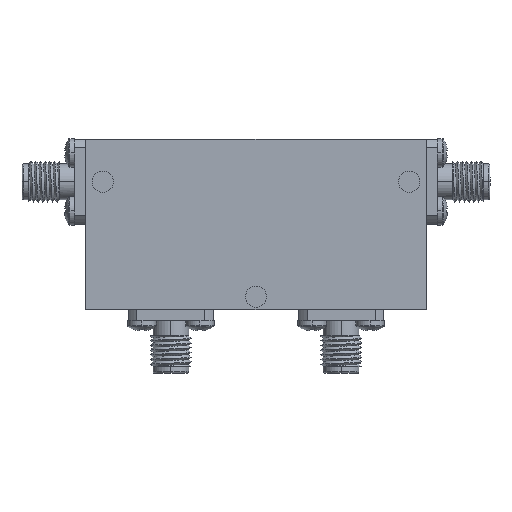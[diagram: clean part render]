
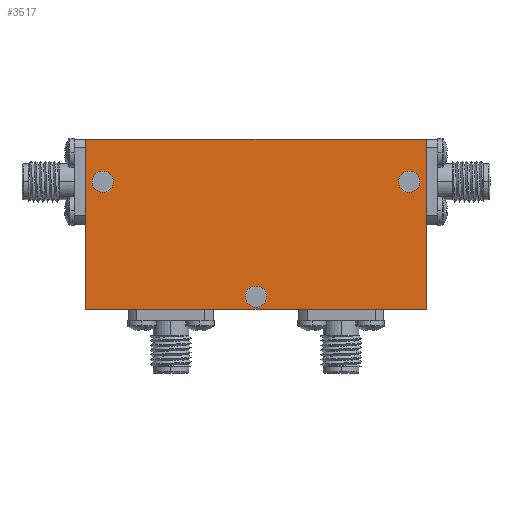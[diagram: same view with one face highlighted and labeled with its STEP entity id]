
A CAD part, top view. The second image highlights one B-rep face of the part: STEP entity #3517.
In plain terms, the highlighted planar face has unit normal (0, 0, 1).
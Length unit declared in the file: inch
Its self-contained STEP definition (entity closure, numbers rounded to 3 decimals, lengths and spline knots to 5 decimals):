
#24 = CARTESIAN_POINT ( 'NONE',  ( 0., -0.425, 0.25 ) ) ;
#54 = EDGE_CURVE ( 'NONE', #2846, #2565, #1961, .T. ) ;
#116 = CIRCLE ( 'NONE', #2956, 0.0625 ) ;
#124 = DIRECTION ( 'NONE',  ( 0., 0., 1. ) ) ;
#130 = CARTESIAN_POINT ( 'NONE',  ( -0.0625, -0.425, 0.25 ) ) ;
#147 = VERTEX_POINT ( 'NONE', #3476 ) ;
#151 = CARTESIAN_POINT ( 'NONE',  ( 0.9, 0.25, 0.25 ) ) ;
#191 = EDGE_CURVE ( 'NONE', #298, #291, #1472, .T. ) ;
#291 = VERTEX_POINT ( 'NONE', #2036 ) ;
#298 = VERTEX_POINT ( 'NONE', #2330 ) ;
#398 = CARTESIAN_POINT ( 'NONE',  ( -1., 0.5, 0.25 ) ) ;
#426 = EDGE_LOOP ( 'NONE', ( #2861, #2272 ) ) ;
#439 = DIRECTION ( 'NONE',  ( 0., 1., 0. ) ) ;
#448 = DIRECTION ( 'NONE',  ( 1., 0., 0. ) ) ;
#450 = VERTEX_POINT ( 'NONE', #3284 ) ;
#492 = DIRECTION ( 'NONE',  ( 0., 0., 1. ) ) ;
#577 = ORIENTED_EDGE ( 'NONE', *, *, #54, .F. ) ;
#585 = VECTOR ( 'NONE', #2723, 39.37008 ) ;
#602 = ORIENTED_EDGE ( 'NONE', *, *, #191, .T. ) ;
#742 = CARTESIAN_POINT ( 'NONE',  ( 0., -0.425, 0.25 ) ) ;
#810 = FACE_OUTER_BOUND ( 'NONE', #2719, .T. ) ;
#818 = CARTESIAN_POINT ( 'NONE',  ( -0.9, 0.25, 0.25 ) ) ;
#870 = PLANE ( 'NONE',  #2922 ) ;
#908 = DIRECTION ( 'NONE',  ( 0., 0., 1. ) ) ;
#924 = EDGE_CURVE ( 'NONE', #3097, #1351, #116, .T. ) ;
#1059 = CARTESIAN_POINT ( 'NONE',  ( 1., 0.5, 0.25 ) ) ;
#1067 = EDGE_CURVE ( 'NONE', #3441, #298, #2876, .T. ) ;
#1101 = CARTESIAN_POINT ( 'NONE',  ( -0.8375, 0.25, 0.25 ) ) ;
#1133 = AXIS2_PLACEMENT_3D ( 'NONE', #1267, #2147, #1860 ) ;
#1267 = CARTESIAN_POINT ( 'NONE',  ( 0.9, 0.25, 0.25 ) ) ;
#1279 = VECTOR ( 'NONE', #439, 39.37008 ) ;
#1287 = ORIENTED_EDGE ( 'NONE', *, *, #1697, .F. ) ;
#1351 = VERTEX_POINT ( 'NONE', #130 ) ;
#1366 = LINE ( 'NONE', #1059, #1279 ) ;
#1371 = CIRCLE ( 'NONE', #2580, 0.0625 ) ;
#1425 = DIRECTION ( 'NONE',  ( 0., 0., 1. ) ) ;
#1472 = LINE ( 'NONE', #1681, #2607 ) ;
#1476 = ORIENTED_EDGE ( 'NONE', *, *, #924, .F. ) ;
#1560 = CARTESIAN_POINT ( 'NONE',  ( -1., 0.5, 0.25 ) ) ;
#1676 = EDGE_CURVE ( 'NONE', #3709, #3441, #1951, .T. ) ;
#1681 = CARTESIAN_POINT ( 'NONE',  ( -1., -0.5, 0.25 ) ) ;
#1697 = EDGE_CURVE ( 'NONE', #2565, #2846, #1371, .T. ) ;
#1732 = AXIS2_PLACEMENT_3D ( 'NONE', #151, #2212, #448 ) ;
#1829 = EDGE_CURVE ( 'NONE', #1351, #3097, #2049, .T. ) ;
#1860 = DIRECTION ( 'NONE',  ( 1., 0., 0. ) ) ;
#1951 = LINE ( 'NONE', #1560, #2508 ) ;
#1959 = AXIS2_PLACEMENT_3D ( 'NONE', #818, #492, #3153 ) ;
#1961 = CIRCLE ( 'NONE', #1959, 0.0625 ) ;
#2032 = CARTESIAN_POINT ( 'NONE',  ( -1., 0.5, 0.25 ) ) ;
#2036 = CARTESIAN_POINT ( 'NONE',  ( 1., -0.5, 0.25 ) ) ;
#2049 = CIRCLE ( 'NONE', #3800, 0.0625 ) ;
#2147 = DIRECTION ( 'NONE',  ( 0., 0., 1. ) ) ;
#2210 = ORIENTED_EDGE ( 'NONE', *, *, #1829, .F. ) ;
#2212 = DIRECTION ( 'NONE',  ( 0., 0., 1. ) ) ;
#2261 = CIRCLE ( 'NONE', #1732, 0.0625 ) ;
#2272 = ORIENTED_EDGE ( 'NONE', *, *, #3306, .F. ) ;
#2295 = CARTESIAN_POINT ( 'NONE',  ( 0., 0., 0.25 ) ) ;
#2310 = EDGE_CURVE ( 'NONE', #147, #450, #3692, .T. ) ;
#2330 = CARTESIAN_POINT ( 'NONE',  ( -1., -0.5, 0.25 ) ) ;
#2459 = DIRECTION ( 'NONE',  ( -1., 0., 0. ) ) ;
#2508 = VECTOR ( 'NONE', #2459, 39.37008 ) ;
#2538 = DIRECTION ( 'NONE',  ( 1., 0., 0. ) ) ;
#2565 = VERTEX_POINT ( 'NONE', #3130 ) ;
#2566 = EDGE_CURVE ( 'NONE', #291, #3709, #1366, .T. ) ;
#2580 = AXIS2_PLACEMENT_3D ( 'NONE', #3569, #3654, #3032 ) ;
#2607 = VECTOR ( 'NONE', #2538, 39.37008 ) ;
#2719 = EDGE_LOOP ( 'NONE', ( #2912, #3434, #3761, #602 ) ) ;
#2723 = DIRECTION ( 'NONE',  ( 0., -1., 0. ) ) ;
#2846 = VERTEX_POINT ( 'NONE', #1101 ) ;
#2861 = ORIENTED_EDGE ( 'NONE', *, *, #2310, .F. ) ;
#2876 = LINE ( 'NONE', #398, #585 ) ;
#2894 = CARTESIAN_POINT ( 'NONE',  ( 0.0625, -0.425, 0.25 ) ) ;
#2912 = ORIENTED_EDGE ( 'NONE', *, *, #2566, .T. ) ;
#2922 = AXIS2_PLACEMENT_3D ( 'NONE', #2295, #1425, #3176 ) ;
#2956 = AXIS2_PLACEMENT_3D ( 'NONE', #24, #908, #3591 ) ;
#3026 = FACE_BOUND ( 'NONE', #3485, .T. ) ;
#3032 = DIRECTION ( 'NONE',  ( 1., 0., 0. ) ) ;
#3097 = VERTEX_POINT ( 'NONE', #2894 ) ;
#3130 = CARTESIAN_POINT ( 'NONE',  ( -0.9625, 0.25, 0.25 ) ) ;
#3153 = DIRECTION ( 'NONE',  ( 1., 0., 0. ) ) ;
#3176 = DIRECTION ( 'NONE',  ( 1., 0., 0. ) ) ;
#3279 = CARTESIAN_POINT ( 'NONE',  ( 1., 0.5, 0.25 ) ) ;
#3284 = CARTESIAN_POINT ( 'NONE',  ( 0.8375, 0.25, 0.25 ) ) ;
#3306 = EDGE_CURVE ( 'NONE', #450, #147, #2261, .T. ) ;
#3359 = FACE_BOUND ( 'NONE', #3377, .T. ) ;
#3377 = EDGE_LOOP ( 'NONE', ( #1476, #2210 ) ) ;
#3434 = ORIENTED_EDGE ( 'NONE', *, *, #1676, .T. ) ;
#3441 = VERTEX_POINT ( 'NONE', #2032 ) ;
#3463 = FACE_BOUND ( 'NONE', #426, .T. ) ;
#3476 = CARTESIAN_POINT ( 'NONE',  ( 0.9625, 0.25, 0.25 ) ) ;
#3485 = EDGE_LOOP ( 'NONE', ( #577, #1287 ) ) ;
#3517 = ADVANCED_FACE ( 'NONE', ( #3463, #3359, #3026, #810 ), #870, .T. ) ;
#3569 = CARTESIAN_POINT ( 'NONE',  ( -0.9, 0.25, 0.25 ) ) ;
#3591 = DIRECTION ( 'NONE',  ( 1., 0., 0. ) ) ;
#3654 = DIRECTION ( 'NONE',  ( 0., 0., 1. ) ) ;
#3692 = CIRCLE ( 'NONE', #1133, 0.0625 ) ;
#3700 = DIRECTION ( 'NONE',  ( 1., 0., 0. ) ) ;
#3709 = VERTEX_POINT ( 'NONE', #3279 ) ;
#3761 = ORIENTED_EDGE ( 'NONE', *, *, #1067, .T. ) ;
#3800 = AXIS2_PLACEMENT_3D ( 'NONE', #742, #124, #3700 ) ;
